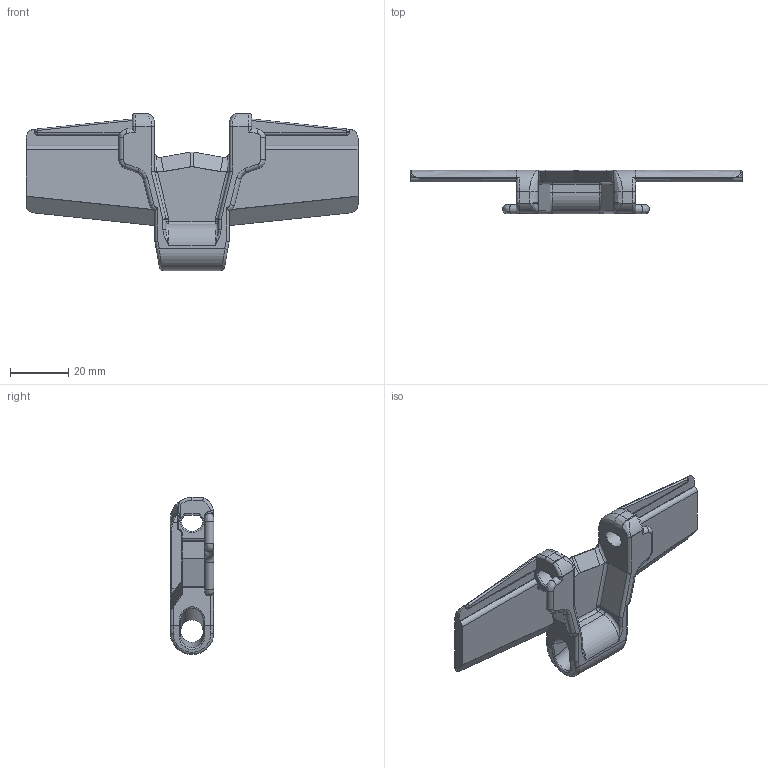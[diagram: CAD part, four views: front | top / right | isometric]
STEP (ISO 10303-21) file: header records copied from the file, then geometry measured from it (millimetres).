
FILE_DESCRIPTION((''),'2;1');
FILE_NAME('P0377','2016-06-22T',('jas'),(''),'CREO PARAMETRIC BY PTC INC, 2016050','CREO PARAMETRIC BY PTC INC, 2016050','');
FILE_SCHEMA(('AUTOMOTIVE_DESIGN { 1 0 10303 214 1 1 1 1 }'));
Length unit declared in the file: millimetre
Products named in the file (1): P0377
Bounding box: 114.3 x 15 x 54.09 mm (x, y, z)
Volume: 19085.1 mm3; surface area: 12150.8 mm2
Topology: 1 solids, 1 shells, 326 faces, 781 edges, 453 vertices
Faces by surface type: cylinder 128, bspline 99, plane 47, torus 44, sphere 4, cone 2, extrusion 2
Entity records: 19005 total; most frequent: CARTESIAN_POINT 11780, ORIENTED_EDGE 1558, DIRECTION 1294, EDGE_CURVE 779, AXIS2_PLACEMENT_3D 517, VERTEX_POINT 453, EDGE_LOOP 330, FACE_OUTER_BOUND 326
